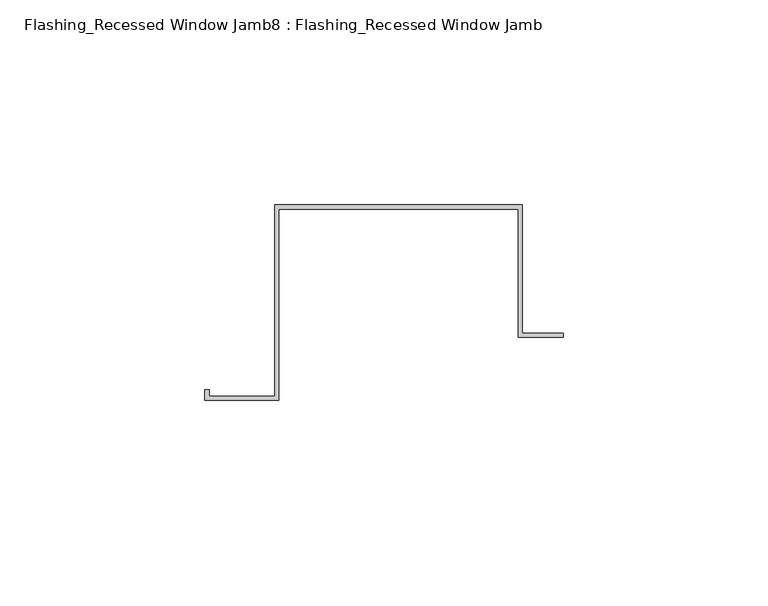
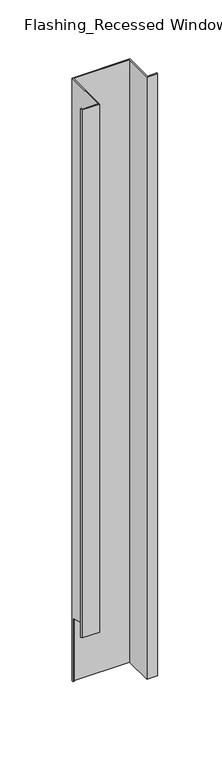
"""IFC4 building model written with IfcOpenShell, lengths in millimetres: proxy geometry, Flashing_Recessed Window Jamb8 : Flashing_Recessed Window Jamb."""

from ifc_helpers import new_model, si_unit, origin, place, context, project, spatial, faceted_brep, source, transform, mapped, element, save


def flashing_recessed_window_jamb8_flashing_recessed_window_jamb_318b466f(model_context):
    return source(origin(), model_context, "Body", "Brep", [
        faceted_brep([(12342.2504622, -26570.1394548, -277.6721404), (12342.2504622, -26538.8073445, -277.6721404), (12281.8825627, -26538.8073445, -277.6721404), (12281.8825627, -26585.4928264, -277.6721404), (12265.8513127, -26585.4928264, -277.6721404), (12265.8513127, -26583.948348, -277.6721404), (12264.8513127, -26583.948348, -277.6721404), (12264.8513127, -26586.4928264, -277.6721404), (12282.8825627, -26586.4928264, -277.6721404), (12282.8825627, -26539.8073445, -277.6721404), (12341.2504622, -26539.8073445, -277.6721404), (12341.2504622, -26571.1394548, -277.6721404), (12352.2504622, -26571.1394548, -277.6721404), (12352.2504622, -26570.1394548, -277.6721404), (12341.2504622, -26571.1394548, -938.2016371), (12341.2504622, -26539.8073445, -938.2016371), (12282.8825627, -26539.8073445, -938.2016371), (12282.8825627, -26540.7391961, -938.2016371), (12281.8825627, -26540.7391961, -938.2016371), (12281.8825627, -26538.8073445, -938.2016371), (12342.2504622, -26538.8073445, -938.2016371), (12342.2504622, -26570.1394548, -938.2016371), (12352.2504622, -26570.1394548, -938.2016371), (12352.2504622, -26571.1394548, -938.2016371), (12281.8825627, -26540.7391961, -868.7682442), (12281.8825627, -26585.4928264, -856.7765451), (12265.8513127, -26585.4928264, -856.7765451), (12265.8513127, -26583.948348, -857.1903869), (12264.8513127, -26583.948348, -857.1903869), (12264.8513127, -26586.4928264, -856.5085959), (12282.8825627, -26586.4928264, -856.5085959), (12282.8825627, -26540.7391961, -868.7682442)], [[[0, 1, 2, 3, 4, 5, 6, 7, 8, 9, 10, 11, 12, 13]], [[14, 15, 16, 17, 18, 19, 20, 21, 22, 23]], [[1, 0, 21, 20]], [[2, 1, 20, 19]], [[3, 2, 19, 18, 24, 25]], [[4, 3, 25, 26]], [[5, 4, 26, 27]], [[6, 5, 27, 28]], [[7, 6, 28, 29]], [[8, 7, 29, 30]], [[9, 8, 30, 31, 17, 16]], [[10, 9, 16, 15]], [[11, 10, 15, 14]], [[12, 11, 14, 23]], [[13, 12, 23, 22]], [[0, 13, 22, 21]], [[24, 31, 30, 29, 28, 27, 26, 25]], [[31, 24, 18, 17]]]),
    ])


if __name__ == "__main__":
    model = new_model("IFC4")
    model_context = context("Model", 3, world=origin())
    ifc_project = project(units=[si_unit("LENGTHUNIT", "METRE", prefix="MILLI")], contexts=[model_context])
    site = spatial("IfcSite", under=ifc_project)
    building = spatial("IfcBuilding", under=site)
    placement = place(None, origin())
    flashing_recessed_window_jamb8_flashing_recessed_window_jamb_shape = flashing_recessed_window_jamb8_flashing_recessed_window_jamb_318b466f(model_context)
    element("IfcBuildingElementProxy", 1, Name="Flashing_Recessed Window Jamb8 : Flashing_Recessed Window Jamb", ObjectType="Flashing_Recessed Window Jamb8 : Flashing_Recessed Window Jamb", at=placement, inside=building, context=model_context, shape_type="MappedRepresentation", body=[
        mapped(flashing_recessed_window_jamb8_flashing_recessed_window_jamb_shape, transform((0.0, 0.0, 0.0), x_axis=(1.0, 0.0, 0.0), y_axis=(0.0, 1.0, 0.0), z_axis=(0.0, 0.0, 1.0))),
    ])
    save(model, "model.ifc")
